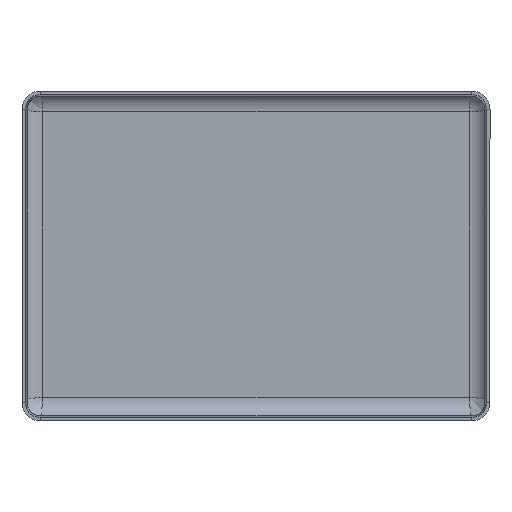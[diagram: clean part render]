
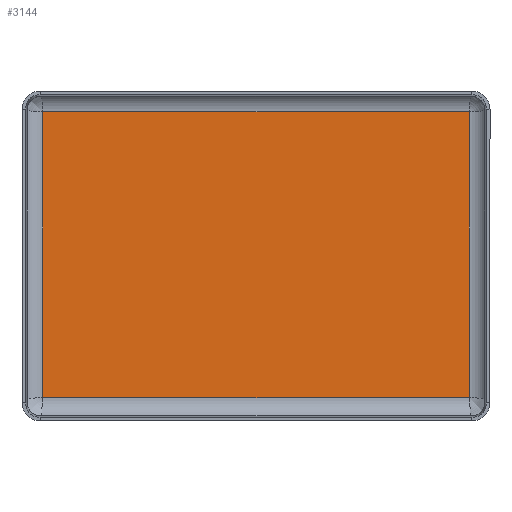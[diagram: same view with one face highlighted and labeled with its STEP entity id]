
A CAD part, front view. The second image highlights one B-rep face of the part: STEP entity #3144.
In plain terms, the highlighted planar face has unit normal (0, -1, 0).
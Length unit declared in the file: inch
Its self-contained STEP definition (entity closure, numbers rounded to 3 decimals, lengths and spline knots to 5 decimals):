
#195 = CARTESIAN_POINT ( 'NONE',  ( -6.81432, 1.79, 4.56432 ) ) ;
#394 = DIRECTION ( 'NONE',  ( -1., 0., 0. ) ) ;
#465 = VERTEX_POINT ( 'NONE', #2500 ) ;
#487 = CARTESIAN_POINT ( 'NONE',  ( 6.81432, 1.79, -4.56432 ) ) ;
#644 = DIRECTION ( 'NONE',  ( 0., 0., 1. ) ) ;
#775 = VERTEX_POINT ( 'NONE', #2277 ) ;
#788 = VECTOR ( 'NONE', #394, 39.37008 ) ;
#858 = CARTESIAN_POINT ( 'NONE',  ( 6.81432, 1.79, 5.455 ) ) ;
#870 = DIRECTION ( 'NONE',  ( 0., 0., -1. ) ) ;
#1066 = LINE ( 'NONE', #2792, #2265 ) ;
#1068 = CARTESIAN_POINT ( 'NONE',  ( -7.705, 1.79, 5.455 ) ) ;
#1798 = EDGE_LOOP ( 'NONE', ( #2778, #3514, #2656, #2795 ) ) ;
#2005 = AXIS2_PLACEMENT_3D ( 'NONE', #1068, #2692, #2591 ) ;
#2016 = CARTESIAN_POINT ( 'NONE',  ( -6.81432, 1.79, 5.455 ) ) ;
#2043 = EDGE_CURVE ( 'NONE', #775, #2224, #3043, .T. ) ;
#2056 = FACE_OUTER_BOUND ( 'NONE', #1798, .T. ) ;
#2224 = VERTEX_POINT ( 'NONE', #487 ) ;
#2265 = VECTOR ( 'NONE', #2784, 39.37008 ) ;
#2277 = CARTESIAN_POINT ( 'NONE',  ( 6.81432, 1.79, 4.56432 ) ) ;
#2313 = VERTEX_POINT ( 'NONE', #195 ) ;
#2349 = LINE ( 'NONE', #2016, #3159 ) ;
#2395 = EDGE_CURVE ( 'NONE', #465, #2313, #2349, .T. ) ;
#2433 = EDGE_CURVE ( 'NONE', #2313, #775, #1066, .T. ) ;
#2445 = PLANE ( 'NONE',  #2005 ) ;
#2500 = CARTESIAN_POINT ( 'NONE',  ( -6.81432, 1.79, -4.56432 ) ) ;
#2591 = DIRECTION ( 'NONE',  ( 0., 0., 1. ) ) ;
#2656 = ORIENTED_EDGE ( 'NONE', *, *, #2433, .F. ) ;
#2692 = DIRECTION ( 'NONE',  ( 0., 1., 0. ) ) ;
#2778 = ORIENTED_EDGE ( 'NONE', *, *, #3497, .F. ) ;
#2784 = DIRECTION ( 'NONE',  ( 1., 0., 0. ) ) ;
#2792 = CARTESIAN_POINT ( 'NONE',  ( -7.705, 1.79, 4.56432 ) ) ;
#2795 = ORIENTED_EDGE ( 'NONE', *, *, #2395, .F. ) ;
#3043 = LINE ( 'NONE', #858, #3130 ) ;
#3108 = CARTESIAN_POINT ( 'NONE',  ( -7.705, 1.79, -4.56432 ) ) ;
#3130 = VECTOR ( 'NONE', #870, 39.37008 ) ;
#3144 = ADVANCED_FACE ( 'NONE', ( #2056 ), #2445, .F. ) ;
#3159 = VECTOR ( 'NONE', #644, 39.37008 ) ;
#3256 = LINE ( 'NONE', #3108, #788 ) ;
#3497 = EDGE_CURVE ( 'NONE', #2224, #465, #3256, .T. ) ;
#3514 = ORIENTED_EDGE ( 'NONE', *, *, #2043, .F. ) ;
